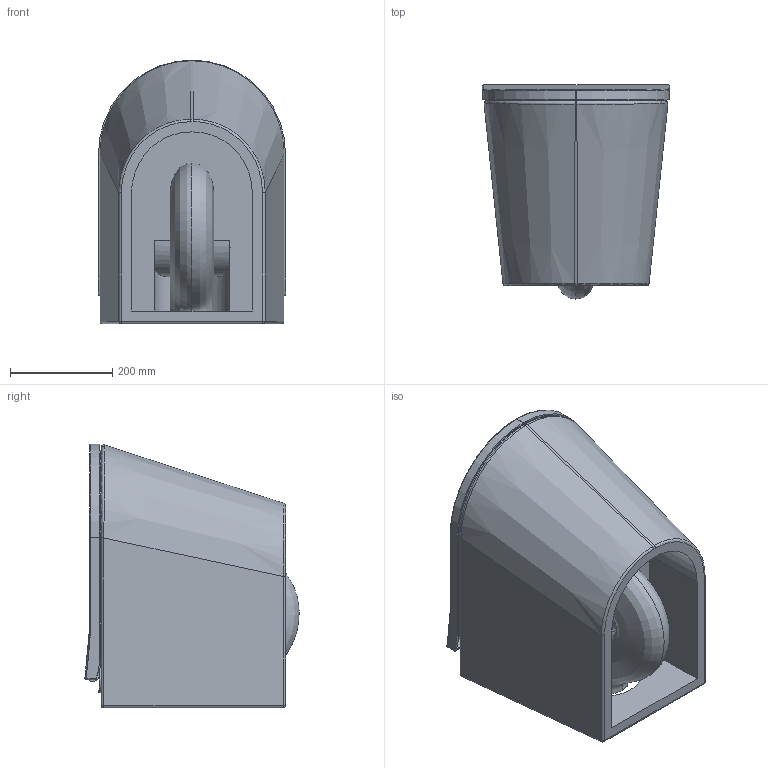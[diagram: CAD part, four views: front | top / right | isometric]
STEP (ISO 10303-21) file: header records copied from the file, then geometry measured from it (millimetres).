
FILE_DESCRIPTION(/* description */ (''),/* implementation_level */ '2;1');
FILE_NAME(/* name */ 'c:\worker\convert-fusion-apr-2019\tmp\job-1\172\output\files\e017d0a5-9156-4588-9f59-6776194271d4\72cfccca-f70a-44dc-9af3-874a55861389.zip.stp',/* time_stamp */ '2019-04-03T10:04:05+00:00',/* author */ (''),/* organization */ (''),/* preprocessor_version */ 'ST-DEVELOPER v18',/* originating_system */ 'Autodesk Translation Framework v8.2.0.1029',/* authorisation */ '');
FILE_SCHEMA (('AUTOMOTIVE_DESIGN { 1 0 10303 214 3 1 1 }'));
Products named in the file (7): TampaMWDE; 053E-TAOCI; 053E-GAI_ASM; 053E-GAI-001; 053E-GAI-002; 053E-GAI-003; PRT0002
Assembly tree (6 placements, depth 3):
  TampaMWDE
    053E-TAOCI
    053E-GAI_ASM
      053E-GAI-001
      053E-GAI-002
      053E-GAI-003
      PRT0002
Bounding box: 365 x 418.12 x 514.5 mm (x, y, z)
Volume: 26727837.7 mm3; surface area: 1940527.5 mm2
Topology: 5 solids, 6 shells, 395 faces, 951 edges, 578 vertices
Faces by surface type: cylinder 150, plane 106, bspline 72, torus 55, sphere 6, cone 6
Full cylindrical faces by diameter (mm): 9.777 x2, 15 x2, 18 x2, 39.137 x2, 50 x2, 60.494 x1, 149.084 x1, 162.86 x1
Entity records: 38511 total; most frequent: CARTESIAN_POINT 29276, DIRECTION 1949, ORIENTED_EDGE 1898, EDGE_CURVE 951, AXIS2_PLACEMENT_3D 781, VERTEX_POINT 578, CIRCLE 442, EDGE_LOOP 414
